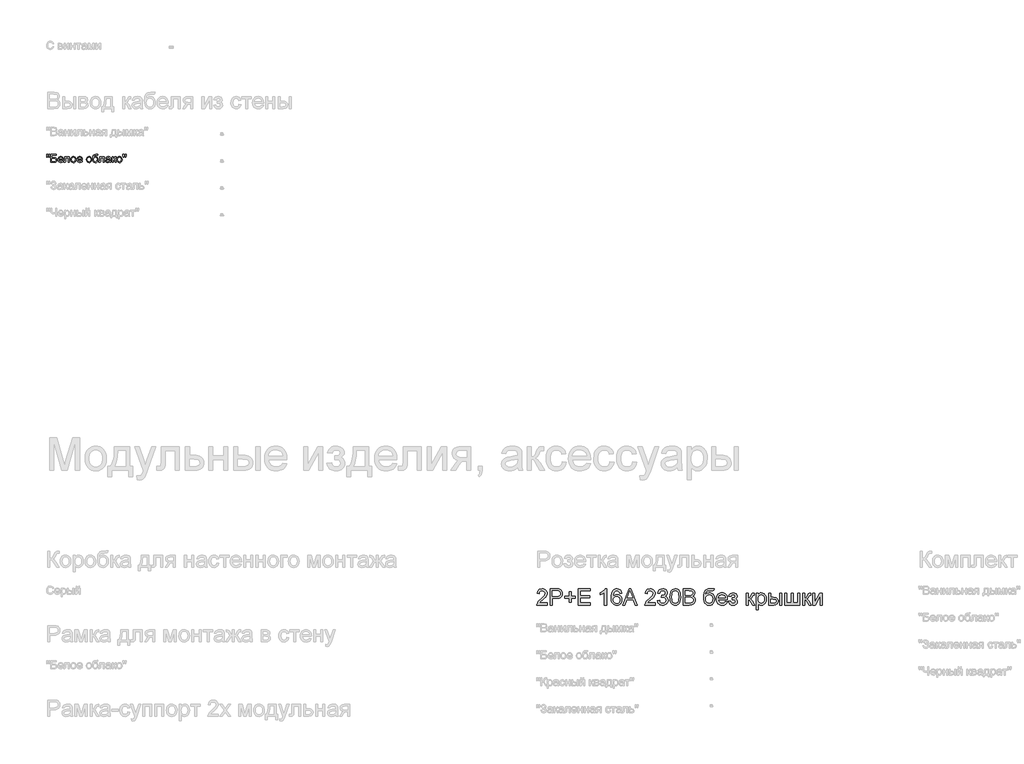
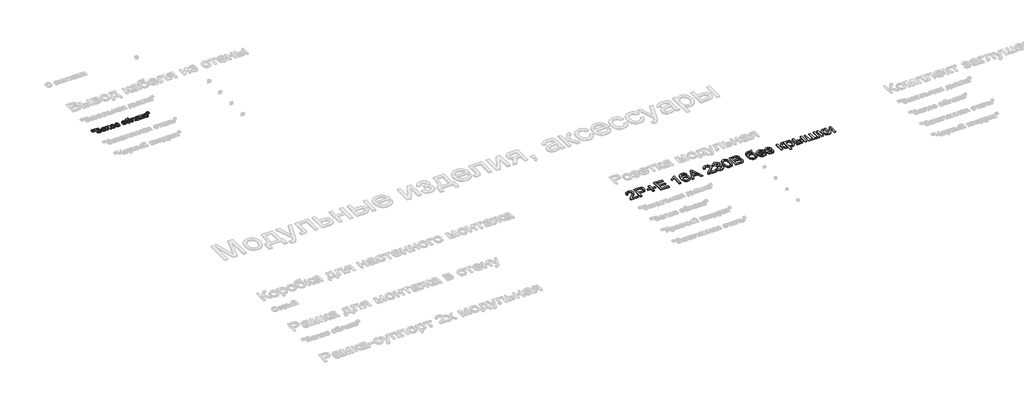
# One storey, part 98 of 168: 2 proxies.
"""IFC4 building model written with IfcOpenShell, lengths in millimetres."""

from ifc_helpers import new_model, si_unit, origin, origin_with_axes, place, context, project, spatial, polyline, outline, extrude, element, save

model = new_model("IFC4")

# Units and contexts
model_context = context("Model", 3, world=origin())
ifc_project = project(units=[si_unit("LENGTHUNIT", "METRE", prefix="MILLI")], contexts=[model_context])

# Site, building, storey
site = spatial("IfcSite", under=ifc_project)
building = spatial("IfcBuilding", under=site)
storey = spatial("IfcBuildingStorey", under=building, Name="Этаж 01", Elevation=0.0)

# Proxies
placement = place(None, origin())
element("IfcBuildingElementProxy", 1, Name="300 мм Arial 2", ObjectType="300 мм Arial 2", at=placement, inside=storey, context=model_context, shape_type="SweptSolid", body=[
    extrude(outline(polyline([(42178.0323041, -31629.1911814), (42178.0323041, -31666.8622977), (41980.2589435, -31666.8622977), (41984.3056455, -31640.8898289), (41993.5946658, -31620.5919398), (42007.1879056, -31600.901056), (42026.8511982, -31580.2904672), (42054.3503773, -31557.2334632), (42095.0013378, -31521.1258453), (42119.3919141, -31494.4727948), (42131.5872022, -31472.8413335), (42135.6522983, -31451.7984834), (42131.8171285, -31432.9353341), (42120.3116191, -31417.254364), (42102.6256922, -31406.6869537), (42080.2492698, -31403.1644836), (42056.7508074, -31406.6041802), (42038.4946633, -31416.9232702), (42026.7132424, -31433.3124131), (42022.6389493, -31454.9622685), (41984.967833, -31450.253379), (41994.1005036, -31413.8146674), (42002.6468622, -31399.27873), (42013.8465697, -31387.198405), (42027.4421086, -31377.702451), (42043.1759617, -31370.9196267), (42081.0586102, -31365.4933673), (42101.2484339, -31367.0016835), (42119.2171701, -31371.526632), (42134.9648188, -31379.0682129), (42148.4913799, -31389.6264262), (42159.3553951, -31402.4195226), (42167.1154059, -31416.6657528), (42171.7714124, -31432.365117), (42173.3234146, -31449.517615), (42171.6495515, -31467.5346357), (42166.6279623, -31485.2389567), (42157.7160209, -31503.2467804), (42144.3711016, -31522.174309), (42123.0983252, -31544.7714606), (42090.4028129, -31573.788153), (42047.0663138, -31610.0245295), (42030.0701657, -31629.1911814), (42178.0323041, -31629.1911814)])), origin_with_axes(), (0.0, 0.0, 1.0), 20.0),
    extrude(outline(polyline([(42229.830089, -31666.8622977), (42229.830089, -31365.4933673), (42341.5190628, -31365.4933673), (42386.547819, -31368.3628468), (42406.6249789, -31373.7247269), (42423.1520775, -31382.4527273), (42436.4602087, -31394.942321), (42446.8804662, -31411.5889813), (42453.6127067, -31431.2246828), (42455.8567869, -31452.6814001), (42454.3415729, -31471.181266), (42449.795931, -31488.2004068), (42442.2198612, -31503.7388225), (42431.6133634, -31517.7965133), (42417.0521342, -31529.4491755), (42397.61187, -31537.7725056), (42373.2925708, -31542.7665037), (42344.0942367, -31544.4311697), (42267.5012053, -31544.4311697), (42267.5012053, -31666.8622977), (42229.830089, -31666.8622977)]), holes=[polyline([(42267.5012053, -31506.7600534), (42346.3015287, -31506.7600534), (42379.7052139, -31503.3019627), (42401.7781336, -31492.9276904), (42414.0837863, -31476.2810301), (42418.1856706, -31454.0057753), (42415.7668464, -31437.0832035), (42408.5103741, -31422.8093821), (42397.3175644, -31412.0672279), (42383.0897282, -31405.7396576), (42345.4186119, -31403.1644836), (42267.5012053, -31403.1644836), (42267.5012053, -31506.7600534)])]), origin_with_axes(), (0.0, 0.0, 1.0), 20.0),
    extrude(outline(polyline([(42578.2879149, -31619.7734024), (42578.2879149, -31539.7222802), (42498.2367927, -31539.7222802), (42498.2367927, -31502.0511639), (42578.2879149, -31502.0511639), (42578.2879149, -31422.0000417), (42615.9590312, -31422.0000417), (42615.9590312, -31502.0511639), (42696.0101533, -31502.0511639), (42696.0101533, -31539.7222802), (42615.9590312, -31539.7222802), (42615.9590312, -31619.7734024), (42578.2879149, -31619.7734024)])), origin_with_axes(), (0.0, 0.0, 1.0), 20.0),
    extrude(outline(polyline([(42752.5168278, -31666.8622977), (42752.5168278, -31365.4933673), (42969.1257465, -31365.4933673), (42969.1257465, -31403.1644836), (42790.1879441, -31403.1644836), (42790.1879441, -31492.6333848), (42959.7079675, -31492.6333848), (42959.7079675, -31530.3045011), (42790.1879441, -31530.3045011), (42790.1879441, -31629.1911814), (42973.8346361, -31629.1911814), (42973.8346361, -31666.8622977), (42752.5168278, -31666.8622977)])), origin_with_axes(), (0.0, 0.0, 1.0), 20.0),
    extrude(outline(polyline([(43275.2035665, -31666.8622977), (43237.5324502, -31666.8622977), (43237.5324502, -31432.006432), (43201.8478967, -31457.4270779), (43162.1902176, -31476.446577), (43162.1902176, -31440.8355999), (43191.7771271, -31424.7407626), (43217.4093051, -31405.5925048), (43237.6152237, -31385.2302363), (43250.9233548, -31365.4933673), (43275.2035665, -31365.4933673), (43275.2035665, -31666.8622977)])), origin_with_axes(), (0.0, 0.0, 1.0), 20.0),
    extrude(outline(polyline([(43557.7369388, -31445.5444894), (43520.0658225, -31450.253379), (43513.9957696, -31431.5833677), (43505.7920011, -31418.8362566), (43488.7038824, -31407.0824268), (43468.0473084, -31403.1644836), (43450.5361254, -31405.445352), (43434.055012, -31412.2879571), (43419.9007523, -31426.6997342), (43408.3400606, -31446.5377708), (43400.5317652, -31474.59797), (43397.6346945, -31513.6762349), (43412.7454475, -31496.0454903), (43430.8544387, -31483.6202759), (43450.9499927, -31476.253439), (43472.0204339, -31473.7978267), (43490.1202281, -31475.4762883), (43506.8220707, -31480.5116731), (43522.1259617, -31488.9039811), (43536.0319011, -31500.6532123), (43547.5879943, -31515.0603909), (43555.8423465, -31531.4265412), (43560.7949579, -31549.7516631), (43562.4458284, -31570.0357566), (43559.3372255, -31597.0107039), (43550.0114169, -31622.0174825), (43535.2409548, -31643.2258795), (43515.7983914, -31658.805682), (43492.5666434, -31668.379811), (43466.4286276, -31671.5711873), (43443.9717311, -31669.4558658), (43423.6899368, -31663.1099014), (43405.5832449, -31652.533294), (43389.6516552, -31637.7260437), (43376.6631215, -31618.0627511), (43367.3855975, -31592.9180167), (43361.819083, -31562.2918406), (43359.9635782, -31526.1842228), (43362.0237174, -31485.7034077), (43368.2041349, -31451.1546899), (43378.5048308, -31422.5380692), (43392.925805, -31399.8535456), (43408.5561913, -31384.8209676), (43426.678978, -31374.0834119), (43447.2941653, -31367.6408784), (43470.4017532, -31365.4933673), (43503.4559504, -31370.8092621), (43529.92506, -31386.7569466), (43548.4663125, -31412.085622), (43557.7369388, -31445.5444894)]), holes=[polyline([(43397.6346945, -31569.4471454), (43399.8143953, -31586.1397909), (43406.3534978, -31602.0782784), (43416.5070409, -31615.7818827), (43429.5300635, -31625.7698789), (43445.2478217, -31631.8675229), (43463.4855717, -31633.900071), (43488.3451975, -31629.6878221), (43507.8889285, -31617.0510756), (43520.5532662, -31597.1854478), (43524.7747121, -31571.2865554), (43520.6084485, -31546.4269296), (43508.1096577, -31527.4718098), (43488.2348329, -31515.4696597), (43461.9404673, -31511.468943), (43437.1176297, -31515.4696597), (43416.3598881, -31527.4718098), (43402.3159929, -31545.9670771), (43397.6346945, -31569.4471454)])]), origin_with_axes(), (0.0, 0.0, 1.0), 20.0),
    extrude(outline(polyline([(43574.4387814, -31666.8622977), (43694.7361938, -31365.4933673), (43726.8155038, -31365.4933673), (43847.1129162, -31666.8622977), (43807.3080844, -31666.8622977), (43772.8007532, -31572.684507), (43648.677368, -31572.684507), (43614.2436133, -31666.8622977), (43574.4387814, -31666.8622977)]), holes=[polyline([(43662.509731, -31535.0133907), (43759.0419666, -31535.0133907), (43731.8922753, -31460.9219568), (43710.7758488, -31403.1644836), (43692.0138671, -31454.4472337), (43662.509731, -31535.0133907)])]), origin_with_axes(), (0.0, 0.0, 1.0), 20.0),
    extrude(outline(polyline([(44184.0192474, -31629.1911814), (44184.0192474, -31666.8622977), (43986.2458868, -31666.8622977), (43990.2925888, -31640.8898289), (43999.5816091, -31620.5919398), (44013.1748489, -31600.901056), (44032.8381415, -31580.2904672), (44060.3373206, -31557.2334632), (44100.9882811, -31521.1258453), (44125.3788574, -31494.4727948), (44137.5741455, -31472.8413335), (44141.6392416, -31451.7984834), (44137.8040718, -31432.9353341), (44126.2985624, -31417.254364), (44108.6126355, -31406.6869537), (44086.2362131, -31403.1644836), (44062.7377507, -31406.6041802), (44044.4816066, -31416.9232702), (44032.7001857, -31433.3124131), (44028.6258926, -31454.9622685), (43990.9547763, -31450.253379), (44000.0874469, -31413.8146674), (44008.6338055, -31399.27873), (44019.833513, -31387.198405), (44033.4290519, -31377.702451), (44049.162905, -31370.9196267), (44087.0455535, -31365.4933673), (44107.2353772, -31367.0016835), (44125.2041134, -31371.526632), (44140.9517621, -31379.0682129), (44154.4783232, -31389.6264262), (44165.3423384, -31402.4195226), (44173.1023492, -31416.6657528), (44177.7583557, -31432.365117), (44179.3103579, -31449.517615), (44177.6364948, -31467.5346357), (44172.6149056, -31485.2389567), (44163.7029642, -31503.2467804), (44150.3580449, -31522.174309), (44129.0852685, -31544.7714606), (44096.3897562, -31573.788153), (44053.0532571, -31610.0245295), (44036.057109, -31629.1911814), (44184.0192474, -31629.1911814)])), origin_with_axes(), (0.0, 0.0, 1.0), 20.0),
    extrude(outline(polyline([(44221.6903637, -31586.8111756), (44259.36148, -31582.102286), (44267.7951748, -31605.7754924), (44280.1468128, -31621.7599651), (44297.0233993, -31630.8650445), (44319.0319396, -31633.900071), (44344.8572557, -31629.7246103), (44364.7964598, -31617.1982284), (44377.543571, -31598.509823), (44381.792608, -31575.8482921), (44377.5803592, -31554.3363925), (44364.9436126, -31536.8895888), (44345.8137489, -31525.3288971), (44322.1221484, -31521.4753332), (44295.7082211, -31525.5956116), (44299.9020759, -31487.9244953), (44305.9353406, -31488.3659537), (44328.504901, -31485.662021), (44348.6832285, -31477.550223), (44362.9202617, -31463.8282246), (44367.6659394, -31444.2936907), (44364.2262427, -31428.0241094), (44353.9071528, -31414.8263428), (44338.1618034, -31406.0799484), (44318.4433284, -31403.1644836), (44298.6880653, -31406.1075396), (44282.5380457, -31414.9367074), (44270.7474278, -31429.6519872), (44264.0703696, -31450.253379), (44226.3992533, -31445.5444894), (44237.4908954, -31411.71774), (44257.2277645, -31386.462641), (44284.2303029, -31370.7356857), (44317.1189533, -31365.4933673), (44340.8013567, -31368.0777383), (44362.5523797, -31375.8308513), (44380.8912971, -31388.0629277), (44394.3373841, -31404.0841886), (44402.5871378, -31422.5426677), (44405.3370557, -31442.0863987), (44402.7250935, -31460.2965574), (44394.889207, -31476.814459), (44381.9397608, -31490.8859453), (44363.9871195, -31501.7568583), (44387.5683553, -31511.285002), (44405.0427501, -31527.508598), (44415.8584808, -31549.5447295), (44419.4637243, -31576.5104797), (44417.6611025, -31595.6219494), (44412.2532372, -31613.2251028), (44403.2401283, -31629.3199401), (44390.6217759, -31643.9064612), (44375.248907, -31656.0097789), (44357.9722488, -31664.6550058), (44338.7918013, -31669.8421419), (44317.7075645, -31671.5711873), (44298.6512771, -31670.0950608), (44281.2872469, -31665.6666812), (44265.6154739, -31658.2860487), (44251.6359581, -31647.9531632), (44239.9143181, -31635.2750299), (44231.0161723, -31620.8586542), (44224.9415209, -31604.7040361), (44221.6903637, -31586.8111756)])), origin_with_axes(), (0.0, 0.0, 1.0), 20.0),
    extrude(outline(polyline([(44452.4259511, -31518.6058537), (44455.1942631, -31470.3673271), (44463.4991991, -31431.8960674), (44477.2579858, -31402.6034635), (44496.3878495, -31381.9009043), (44521.0267461, -31369.5952515), (44551.3126314, -31365.4933673), (44574.5259853, -31367.9213885), (44595.311318, -31375.205452), (44612.6937423, -31387.0604493), (44625.6983708, -31403.2012718), (44635.5208201, -31423.4899638), (44643.3567066, -31447.7885696), (44648.4886604, -31478.644672), (44650.1993117, -31518.6058537), (44647.4585908, -31566.5684688), (44639.2364282, -31604.9477579), (44625.5604151, -31634.267953), (44606.4581425, -31655.0532857), (44581.7640635, -31667.4417119), (44551.3126314, -31671.5711873), (44530.5640869, -31669.7777625), (44512.1699871, -31664.3974884), (44496.1303321, -31655.4303647), (44482.4451219, -31642.8763916), (44469.3117347, -31620.1826711), (44459.9307438, -31591.9063412), (44454.3021493, -31558.0474021), (44452.4259511, -31518.6058537)]), holes=[polyline([(44490.0970674, -31518.5322773), (44494.5116513, -31577.7888697), (44500.0298813, -31598.0568683), (44507.7554032, -31612.0846687), (44527.4738781, -31628.4462204), (44551.3126314, -31633.900071), (44575.1513847, -31628.4278263), (44594.8698596, -31612.0110923), (44602.5953815, -31597.9602993), (44608.1136115, -31577.6968992), (44612.5281954, -31518.5322773), (44608.2607642, -31460.6092571), (44602.9264753, -31440.4079371), (44595.4584708, -31426.0467437), (44575.7767841, -31408.8850486), (44550.871173, -31403.1644836), (44527.2899371, -31408.2044669), (44508.3440144, -31423.3244169), (44500.3609751, -31438.9594017), (44494.6588041, -31460.03904), (44490.0970674, -31518.5322773)])]), origin_with_axes(), (0.0, 0.0, 1.0), 20.0),
    extrude(outline(polyline([(44697.2882071, -31666.8622977), (44697.2882071, -31365.4933673), (44812.2881188, -31365.4933673), (44843.9167733, -31367.7098563), (44868.6108522, -31374.3593234), (44887.5383809, -31385.6073154), (44901.8673846, -31401.6193792), (44910.8896905, -31420.4549374), (44913.8971258, -31440.1734123), (44911.3679371, -31458.3191917), (44903.780371, -31475.3797192), (44891.0792451, -31490.3065312), (44873.2093772, -31502.0511639), (44894.5557299, -31513.1979883), (44910.3286705, -31530.1573483), (44920.0683463, -31551.8072037), (44923.3149049, -31577.0255145), (44921.0984159, -31598.0407735), (44914.4489488, -31617.5293222), (44904.525332, -31634.1024061), (44892.4863937, -31646.3712706), (44877.7435228, -31655.2556208), (44859.708108, -31661.6751616), (44811.405202, -31666.8622977), (44697.2882071, -31666.8622977)]), holes=[polyline([(44734.9593234, -31487.9244953), (44803.7532565, -31487.9244953), (44843.9259704, -31484.6871337), (44857.9882596, -31479.1045244), (44868.0958174, -31470.7444061), (44874.1934615, -31459.7355374), (44876.2260095, -31446.206677), (44874.3314173, -31433.0732898), (44868.6476404, -31421.6321597), (44859.4321965, -31412.7018243), (44846.9426027, -31407.1008209), (44798.5293322, -31403.1644836), (44734.9593234, -31403.1644836), (44734.9593234, -31487.9244953)]), polyline([(44734.9593234, -31629.1911814), (44812.2145424, -31629.1911814), (44840.173574, -31627.7196534), (44863.8283863, -31619.515885), (44879.5001593, -31602.7772542), (44884.1078813, -31590.949848), (44885.6437886, -31577.3933965), (44883.8411668, -31561.6480471), (44878.4333015, -31548.1099897), (44868.9879313, -31537.5241853), (44855.0727948, -31530.6355949), (44835.3635169, -31526.8556074), (44808.5357224, -31525.5956116), (44734.9593234, -31525.5956116), (44734.9593234, -31629.1911814)])]), origin_with_axes(), (0.0, 0.0, 1.0), 20.0),
    extrude(outline(polyline([(45243.5193935, -31360.7844777), (45276.4816203, -31360.7844777), (45272.9131649, -31378.6911339), (45266.7695356, -31390.1782492), (45258.2530674, -31396.974869), (45247.5660955, -31400.8100388), (45201.4336933, -31403.1644836), (45163.1279805, -31405.3349874), (45139.2984243, -31411.8464987), (45125.042997, -31423.1404759), (45115.459671, -31439.6583775), (45109.8218794, -31461.5289621), (45107.4030553, -31488.8809885), (45122.5505965, -31467.8381383), (45140.0341883, -31452.8285529), (45159.8722249, -31443.8338382), (45182.0831003, -31440.8355999), (45202.6063171, -31442.7416885), (45221.2809269, -31448.4599542), (45238.1069297, -31457.9903972), (45253.0843254, -31471.3330173), (45265.3807811, -31487.9267945), (45274.1639637, -31507.2107089), (45279.4338733, -31529.1847603), (45281.1905098, -31553.8489488), (45277.7048279, -31589.8094138), (45267.2477822, -31618.6697564), (45252.0082706, -31641.101361), (45234.1751908, -31657.7756125), (45211.5872363, -31668.1222936), (45182.0831003, -31671.5711873), (45148.0816069, -31667.1290122), (45122.5965817, -31653.8024869), (45103.843797, -31633.5505831), (45090.0390251, -31608.3322723), (45081.540951, -31570.3576533), (45078.7082597, -31511.836825), (45080.4947866, -31472.1722481), (45085.8543674, -31439.55721), (45094.7870021, -31413.9917106), (45107.2926907, -31395.4757499), (45123.5047904, -31382.3584575), (45143.5566584, -31372.9889629), (45167.4482947, -31367.3672662), (45195.1796994, -31365.4933673), (45237.1182468, -31364.6472387), (45243.5193935, -31360.7844777)]), holes=[polyline([(45243.5193935, -31552.6717264), (45239.4359034, -31523.0296347), (45227.1854329, -31499.2920489), (45207.5037462, -31483.7030494), (45181.1266071, -31478.5067162), (45153.627428, -31483.997355), (45142.5403844, -31490.8606535), (45133.2283714, -31500.4692713), (45120.5916248, -31526.1198434), (45116.379376, -31559.1464495), (45121.0330832, -31591.1613802), (45134.9942049, -31614.6598426), (45155.7795377, -31629.0900139), (45180.9058779, -31633.900071), (45206.1609769, -31628.3358558), (45226.1553633, -31611.6432103), (45239.178386, -31585.7719089), (45243.5193935, -31552.6717264)])]), origin_with_axes(), (0.0, 0.0, 1.0), 20.0),
    extrude(outline(polyline([(45483.2313016, -31600.9378442), (45520.1666539, -31605.6467337), (45506.8585227, -31633.4770067), (45485.6225345, -31654.2807335), (45456.936936, -31667.2485738), (45421.2799736, -31671.5711873), (45397.9056713, -31669.7064854), (45377.0789519, -31664.1123798), (45358.7998152, -31654.7888705), (45343.0682614, -31641.7359575), (45330.4177193, -31625.3169242), (45321.3816178, -31605.8950541), (45315.9599569, -31583.4703472), (45314.1527366, -31558.0428036), (45315.978351, -31531.7530365), (45321.4551942, -31508.5810693), (45330.5832662, -31488.526902), (45343.362567, -31471.5905347), (45359.0527341, -31458.1352507), (45376.913405, -31448.5243336), (45396.9445796, -31442.7577833), (45419.146258, -31440.8355999), (45440.6328658, -31442.7531848), (45460.0639329, -31448.5059395), (45477.4394594, -31458.093864), (45492.7594453, -31471.5169583), (45505.2651338, -31488.4165374), (45514.1977685, -31508.4339165), (45519.5573493, -31531.5690955), (45521.3438763, -31557.8220744), (45521.1231471, -31567.9756174), (45351.8238529, -31567.9756174), (45358.3445613, -31596.1737724), (45373.4921024, -31616.9039228), (45395.35349, -31629.6510339), (45422.0157376, -31633.900071), (45442.0653063, -31631.9319023), (45458.9510899, -31626.0273963), (45472.6730883, -31615.8186709), (45483.2313016, -31600.9378442)]), holes=[polyline([(45351.8238529, -31530.3045011), (45483.67276, -31530.3045011), (45478.5775943, -31510.4020852), (45468.5895982, -31496.165052), (45446.6270431, -31482.9213001), (45418.9991052, -31478.5067162), (45393.6060505, -31482.0291863), (45372.6091856, -31492.5965966), (45358.0134675, -31509.068513), (45351.8238529, -31530.3045011)])]), origin_with_axes(), (0.0, 0.0, 1.0), 20.0),
    extrude(outline(polyline([(45610.8127775, -31567.9756174), (45610.8127775, -31530.3045011), (45640.5376427, -31528.8329731), (45655.5472281, -31520.9970866), (45660.8447288, -31513.6486438), (45662.6105624, -31504.6263379), (45660.2469206, -31493.9117748), (45653.1559952, -31485.6068387), (45642.3310674, -31480.2817468), (45628.7654189, -31478.5067162), (45615.0526175, -31480.2725498), (45603.5655022, -31485.5700505), (45594.304073, -31494.3992184), (45587.2683298, -31506.7600534), (45544.888324, -31502.0511639), (45556.1271189, -31475.2693546), (45573.2152376, -31456.1394909), (45596.15268, -31444.6615726), (45624.9394461, -31440.8355999), (45656.4301449, -31445.4985042), (45680.2688982, -31459.4872171), (45695.2784836, -31479.950653), (45700.2816787, -31504.0377267), (45698.5020496, -31516.3985617), (45693.1631621, -31527.4350216), (45684.2650164, -31537.1471062), (45671.8076123, -31545.5348157), (45686.3481482, -31556.0010585), (45696.7132234, -31569.005687), (45702.921232, -31584.5854895), (45704.9905683, -31602.7772542), (45699.7390528, -31630.5063596), (45683.9845063, -31652.4781117), (45658.7937867, -31666.7979184), (45625.2337517, -31671.5711873), (45592.4094807, -31667.1566033), (45567.2923375, -31653.9128515), (45549.8823221, -31631.8399318), (45540.1794344, -31600.9378442), (45582.5594403, -31596.2289547), (45588.9054047, -31612.1582451), (45599.5555885, -31624.0408335), (45613.2775869, -31631.4352616), (45628.8389953, -31633.900071), (45643.9957335, -31631.5364291), (45656.3565685, -31624.4455037), (45664.5787311, -31613.6757583), (45667.319452, -31600.2756566), (45665.6179977, -31589.662261), (45660.5136351, -31580.4836053), (45646.0190844, -31569.8886038), (45618.1704174, -31567.7548882), (45610.8127775, -31567.9756174)])), origin_with_axes(), (0.0, 0.0, 1.0), 20.0),
    extrude(outline(polyline([(45869.8017021, -31445.5444894), (45907.4728184, -31445.5444894), (45907.4728184, -31539.7222802), (45922.7951035, -31538.030023), (45932.7095233, -31532.9532515), (45941.4835089, -31519.7094997), (45953.3844914, -31493.5163016), (45970.5645806, -31459.4872171), (45985.7213188, -31448.413969), (46013.2756802, -31445.5444894), (46020.4861673, -31445.5444894), (46020.4861673, -31483.4363349), (46010.3326243, -31483.2156057), (45991.9385245, -31487.1887313), (45978.9890783, -31511.9839778), (45963.7955519, -31538.8025752), (45942.4951844, -31551.9359624), (45954.4329551, -31557.2380617), (45966.2603612, -31566.5960599), (45989.5840797, -31597.4797534), (46029.9039464, -31666.8622977), (45987.0824822, -31666.8622977), (45947.5719559, -31598.9512814), (45927.7063282, -31570.2196976), (45918.4173078, -31565.0049703), (45907.4728184, -31563.2667279), (45907.4728184, -31666.8622977), (45869.8017021, -31666.8622977), (45869.8017021, -31445.5444894)])), origin_with_axes(), (0.0, 0.0, 1.0), 20.0),
    extrude(outline(polyline([(46053.4483941, -31751.6223094), (46053.4483941, -31445.5444894), (46091.1195104, -31445.5444894), (46091.1195104, -31482.4798418), (46103.406769, -31464.2604859), (46117.1655557, -31451.2466604), (46133.2052107, -31443.438365), (46152.3350744, -31440.8355999), (46177.8109026, -31444.4776316), (46200.0861574, -31455.4037269), (46218.2227397, -31472.9516981), (46231.2825506, -31496.4593576), (46239.1736194, -31524.2160541), (46241.8039756, -31554.5111364), (46238.8333285, -31586.7284021), (46229.9213872, -31615.5427594), (46215.3532602, -31639.4918773), (46195.414056, -31657.1134249), (46172.1915051, -31667.9567467), (46147.7733377, -31671.5711873), (46130.4552927, -31669.1523632), (46114.9950519, -31661.8958908), (46101.7604971, -31650.9422044), (46091.1195104, -31637.4317381), (46091.1195104, -31751.6223094), (46053.4483941, -31751.6223094)]), holes=[polyline([(46091.1195104, -31557.9692272), (46095.1938035, -31591.7407943), (46107.4166828, -31615.3588184), (46125.4520976, -31629.2647578), (46146.9639973, -31633.900071), (46168.8253848, -31629.0992109), (46187.3206521, -31614.6966308), (46199.9298075, -31590.214084), (46204.1328593, -31555.173324), (46200.0309751, -31521.5856978), (46187.7253223, -31497.63658), (46169.7174987, -31483.2891821), (46148.5091017, -31478.5067162), (46127.2179312, -31483.5926848), (46108.5203288, -31498.8505905), (46095.469715, -31523.8021869), (46091.1195104, -31557.9692272)])]), origin_with_axes(), (0.0, 0.0, 1.0), 20.0),
    extrude(outline(polyline([(46491.3751212, -31445.5444894), (46529.0462375, -31445.5444894), (46529.0462375, -31666.8622977), (46491.3751212, -31666.8622977), (46491.3751212, -31445.5444894)])), origin_with_axes(), (0.0, 0.0, 1.0), 20.0),
    extrude(outline(polyline([(46284.1839815, -31445.5444894), (46321.8550978, -31445.5444894), (46321.8550978, -31525.5956116), (46368.4289584, -31525.5956116), (46408.6844457, -31530.3136982), (46424.9011439, -31536.2113064), (46438.5104785, -31544.4679579), (46449.2779246, -31554.7985442), (46456.9689576, -31566.9179567), (46461.5835773, -31580.8261954), (46463.1217839, -31596.5232603), (46457.9622389, -31623.4798135), (46442.483604, -31646.2241178), (46430.6217089, -31655.2533215), (46415.6742036, -31661.7027528), (46376.5223623, -31666.8622977), (46284.1839815, -31666.8622977), (46284.1839815, -31445.5444894)]), holes=[polyline([(46321.8550978, -31629.1911814), (46360.5562837, -31629.1911814), (46390.5570604, -31627.2138157), (46410.5146586, -31621.2817185), (46421.7166654, -31611.1557666), (46425.4506676, -31596.5968367), (46422.6823556, -31584.2911839), (46414.3774196, -31573.420271), (46396.6179163, -31565.8051137), (46365.4859024, -31563.2667279), (46321.8550978, -31563.2667279), (46321.8550978, -31629.1911814)])]), origin_with_axes(), (0.0, 0.0, 1.0), 20.0),
    extrude(outline(polyline([(46585.5529119, -31445.5444894), (46623.2240282, -31445.5444894), (46623.2240282, -31629.1911814), (46707.9840399, -31629.1911814), (46707.9840399, -31445.5444894), (46745.6551562, -31445.5444894), (46745.6551562, -31629.1911814), (46830.4151679, -31629.1911814), (46830.4151679, -31445.5444894), (46868.0862842, -31445.5444894), (46868.0862842, -31666.8622977), (46585.5529119, -31666.8622977), (46585.5529119, -31445.5444894)])), origin_with_axes(), (0.0, 0.0, 1.0), 20.0),
    extrude(outline(polyline([(46919.8840691, -31445.5444894), (46957.5551854, -31445.5444894), (46957.5551854, -31539.7222802), (46972.8774705, -31538.030023), (46982.7918903, -31532.9532515), (46991.5658759, -31519.7094997), (47003.4668584, -31493.5163016), (47020.6469476, -31459.4872171), (47035.8036858, -31448.413969), (47063.3580473, -31445.5444894), (47070.5685344, -31445.5444894), (47070.5685344, -31483.4363349), (47060.4149913, -31483.2156057), (47042.0208915, -31487.1887313), (47029.0714453, -31511.9839778), (47013.8779189, -31538.8025752), (46992.5775514, -31551.9359624), (47004.5153221, -31557.2380617), (47016.3427283, -31566.5960599), (47039.6664468, -31597.4797534), (47079.9863134, -31666.8622977), (47037.1648492, -31666.8622977), (46997.6543229, -31598.9512814), (46977.7886952, -31570.2196976), (46968.4996748, -31565.0049703), (46957.5551854, -31563.2667279), (46957.5551854, -31666.8622977), (46919.8840691, -31666.8622977), (46919.8840691, -31445.5444894)])), origin_with_axes(), (0.0, 0.0, 1.0), 20.0),
    extrude(outline(polyline([(47103.5307611, -31445.5444894), (47141.2018774, -31445.5444894), (47141.2018774, -31614.3287488), (47233.7609874, -31445.5444894), (47282.4685636, -31445.5444894), (47282.4685636, -31666.8622977), (47244.7974473, -31666.8622977), (47244.7974473, -31499.1081079), (47152.8269485, -31666.8622977), (47103.5307611, -31666.8622977), (47103.5307611, -31445.5444894)])), origin_with_axes(), (0.0, 0.0, 1.0), 20.0),
])
element("IfcBuildingElementProxy", 2, Name="150", ObjectType="150", at=placement, inside=storey, context=model_context, shape_type="SweptSolid", body=[
    extrude(outline(polyline([(32880.1485789, -23351.873446), (32875.550054, -23322.7739802), (32875.550054, -23297.7212163), (32894.3856121, -23297.7212163), (32894.3856121, -23322.7739802), (32890.2653338, -23351.873446), (32880.1485789, -23351.873446)])), origin_with_axes(), (0.0, 0.0, 1.0), 20.0),
    extrude(outline(polyline([(32917.7093306, -23351.873446), (32913.2211703, -23322.7739802), (32913.2211703, -23297.7212163), (32932.0567284, -23297.7212163), (32932.0567284, -23322.7739802), (32927.6421445, -23351.873446), (32917.7093306, -23351.873446)])), origin_with_axes(), (0.0, 0.0, 1.0), 20.0),
    extrude(outline(polyline([(32957.9556209, -23297.7212163), (33052.1334117, -23297.7212163), (33052.1334117, -23316.5567745), (32976.791179, -23316.5567745), (32976.791179, -23361.2912251), (33012.0710624, -23361.2912251), (33043.157091, -23365.1171979), (33053.5589544, -23370.6446248), (33061.6615553, -23379.5749603), (33066.8762826, -23391.0712726), (33068.614525, -23404.2966303), (33063.6665122, -23425.7625448), (33048.8960501, -23442.0781113), (33035.6247071, -23446.823789), (33015.4555767, -23448.4056816), (32957.9556209, -23448.4056816), (32957.9556209, -23297.7212163)]), holes=[polyline([(32976.791179, -23429.5701234), (33017.1478339, -23429.5701234), (33031.4124583, -23428.015822), (33041.6119866, -23423.3529177), (33047.7372218, -23415.5814105), (33049.7789669, -23404.7013005), (33045.1068655, -23389.9492325), (33032.102237, -23382.0765578), (33003.7201411, -23380.1267833), (32976.791179, -23380.1267833), (32976.791179, -23429.5701234)])]), origin_with_axes(), (0.0, 0.0, 1.0), 20.0),
    extrude(outline(polyline([(33169.6349209, -23415.4434548), (33188.1025971, -23417.7978996), (33181.4485315, -23431.713036), (33170.8305374, -23442.1148995), (33156.4877381, -23448.5988196), (33138.6592569, -23450.7601263), (33116.5587461, -23447.0307226), (33099.5534008, -23435.8425114), (33088.710079, -23417.9220597), (33085.0956384, -23393.9959345), (33088.7468672, -23369.2650674), (33099.7005536, -23350.7698), (33116.4759726, -23339.2366995), (33137.5923991, -23335.3923327), (33158.0512366, -23339.2275025), (33174.3989927, -23350.7330118), (33185.1181544, -23369.191491), (33188.6912083, -23393.8855699), (33188.5808437, -23398.9623414), (33103.9311966, -23398.9623414), (33107.1915508, -23413.0614189), (33114.7653213, -23423.4264941), (33125.6960151, -23429.8000497), (33139.0271389, -23431.9245682), (33157.4948151, -23427.9882308), (33169.6349209, -23415.4434548)]), holes=[polyline([(33103.9311966, -23380.1267833), (33169.8556501, -23380.1267833), (33167.3080673, -23370.1755753), (33162.3140692, -23363.0570587), (33151.3327917, -23356.4351828), (33137.5188227, -23354.2278908), (33124.8222954, -23355.9891259), (33114.3238629, -23361.272831), (33107.0260039, -23369.5087892), (33103.9311966, -23380.1267833)])]), origin_with_axes(), (0.0, 0.0, 1.0), 20.0),
    extrude(outline(polyline([(33216.9445455, -23337.7467774), (33301.7045572, -23337.7467774), (33301.7045572, -23448.295317), (33282.868999, -23448.295317), (33282.868999, -23356.5823356), (33235.7801036, -23356.5823356), (33235.7801036, -23409.3734019), (33234.5109108, -23433.72719), (33227.539547, -23444.0094917), (33211.0584336, -23448.4056816), (33195.7545426, -23447.4491884), (33195.7545426, -23429.5701234), (33204.1790403, -23429.5701234), (33212.6955084, -23428.4112951), (33216.0984169, -23424.7324752), (33216.9445455, -23408.3065441), (33216.9445455, -23337.7467774)])), origin_with_axes(), (0.0, 0.0, 1.0), 20.0),
    extrude(outline(polyline([(33325.2490049, -23393.0762295), (33329.323298, -23366.3955878), (33341.5461773, -23347.6428031), (33356.6477332, -23338.4549503), (33374.7291332, -23335.3923327), (33394.516586, -23339.1217364), (33410.3217163, -23350.3099476), (33420.6821929, -23368.0740494), (33424.1356852, -23391.5311251), (33422.6089749, -23410.5598213), (33418.0288441, -23425.0451749), (33410.5286499, -23435.8930952), (33400.2417496, -23444.0094917), (33388.0234688, -23449.0724677), (33374.7291332, -23450.7601263), (33354.7025571, -23447.0445182), (33338.915821, -23435.8976937), (33328.6657089, -23417.7611114), (33325.2490049, -23393.0762295)]), holes=[polyline([(33344.084563, -23393.0394413), (33346.2642638, -23410.0861732), (33352.8033663, -23422.2308776), (33362.6442097, -23429.5011455), (33374.7291332, -23431.9245682), (33386.7588745, -23429.48735), (33396.5813237, -23422.1756953), (33403.1204262, -23409.8700426), (33405.300127, -23392.4508301), (33403.1066306, -23375.9007388), (33396.5261414, -23363.9215814), (33386.6898966, -23356.6513134), (33374.7291332, -23354.2278908), (33362.6442097, -23356.6421164), (33352.8033663, -23363.8847932), (33346.2642638, -23376.0019064), (33344.084563, -23393.0394413)])]), origin_with_axes(), (0.0, 0.0, 1.0), 20.0),
    extrude(outline(polyline([(33522.8016363, -23415.4434548), (33541.2693124, -23417.7978996), (33534.6152469, -23431.713036), (33523.9972528, -23442.1148995), (33509.6544535, -23448.5988196), (33491.8259723, -23450.7601263), (33469.7254614, -23447.0307226), (33452.7201162, -23435.8425114), (33441.8767944, -23417.9220597), (33438.2623538, -23393.9959345), (33441.9135826, -23369.2650674), (33452.867269, -23350.7698), (33469.642688, -23339.2366995), (33490.7591145, -23335.3923327), (33511.217952, -23339.2275025), (33527.5657081, -23350.7330118), (33538.2848698, -23369.191491), (33541.8579236, -23393.8855699), (33541.747559, -23398.9623414), (33457.0979119, -23398.9623414), (33460.3582661, -23413.0614189), (33467.9320367, -23423.4264941), (33478.8627305, -23429.8000497), (33492.1938543, -23431.9245682), (33510.6615304, -23427.9882308), (33522.8016363, -23415.4434548)]), holes=[polyline([(33457.0979119, -23380.1267833), (33523.0223655, -23380.1267833), (33520.4747827, -23370.1755753), (33515.4807846, -23363.0570587), (33504.499507, -23356.4351828), (33490.6855381, -23354.2278908), (33477.9890107, -23355.9891259), (33467.4905783, -23361.272831), (33460.1927192, -23369.5087892), (33457.0979119, -23380.1267833)])]), origin_with_axes(), (0.0, 0.0, 1.0), 20.0),
    extrude(outline(polyline([(33614.8457115, -23393.0762295), (33618.9200046, -23366.3955878), (33631.1428839, -23347.6428031), (33646.2444398, -23338.4549503), (33664.3258398, -23335.3923327), (33684.1132926, -23339.1217364), (33699.9184229, -23350.3099476), (33710.2788995, -23368.0740494), (33713.7323918, -23391.5311251), (33712.2056815, -23410.5598213), (33707.6255507, -23425.0451749), (33700.1253565, -23435.8930952), (33689.8384562, -23444.0094917), (33677.6201754, -23449.0724677), (33664.3258398, -23450.7601263), (33644.2992637, -23447.0445182), (33628.5125276, -23435.8976937), (33618.2624155, -23417.7611114), (33614.8457115, -23393.0762295)]), holes=[polyline([(33633.6812696, -23393.0394413), (33635.8609704, -23410.0861732), (33642.4000729, -23422.2308776), (33652.2409163, -23429.5011455), (33664.3258398, -23431.9245682), (33676.3555811, -23429.48735), (33686.1780303, -23422.1756953), (33692.7171328, -23409.8700426), (33694.8968336, -23392.4508301), (33692.7033372, -23375.9007388), (33686.122848, -23363.9215814), (33676.2866032, -23356.6513134), (33664.3258398, -23354.2278908), (33652.2409163, -23356.6421164), (33642.4000729, -23363.8847932), (33635.8609704, -23376.0019064), (33633.6812696, -23393.0394413)])]), origin_with_axes(), (0.0, 0.0, 1.0), 20.0),
    extrude(outline(polyline([(33812.6190721, -23295.3667716), (33829.1001855, -23295.3667716), (33824.2441431, -23310.0636573), (33814.6424231, -23315.3795521), (33791.576222, -23316.5567745), (33760.5085875, -23320.897782), (33753.3808738, -23326.5447707), (33748.5892108, -23334.8037215), (33744.560903, -23359.4150269), (33760.8764695, -23341.3888092), (33770.7954878, -23336.8914518), (33781.9009255, -23335.3923327), (33801.4998388, -23339.2045098), (33817.401538, -23350.6410414), (33827.9413572, -23368.5798871), (33831.4546302, -23391.8990071), (33829.7117893, -23409.8792396), (33824.4832664, -23424.3094109), (33807.9469707, -23443.8623389), (33796.6529935, -23449.0356795), (33781.9009255, -23450.7601263), (33764.9001788, -23448.5390388), (33752.1576662, -23441.8757762), (33742.7812738, -23431.7498242), (33735.8788879, -23419.1406689), (33731.6298508, -23400.1533594), (33730.2135052, -23370.8929452), (33733.786559, -23334.7531377), (33744.5057207, -23312.7124076), (33762.6377045, -23301.4690142), (33788.449225, -23297.7212163), (33809.4184987, -23297.2981521), (33812.6190721, -23295.3667716)]), holes=[polyline([(33812.6190721, -23391.3103959), (33810.577327, -23376.48935), (33804.4520918, -23364.6205572), (33794.6112484, -23356.8260574), (33781.4226789, -23354.2278908), (33767.6730893, -23356.9732102), (33757.473561, -23365.2091684), (33751.1551877, -23378.0344544), (33749.0490633, -23394.5477575), (33751.3759169, -23410.5552228), (33758.3564778, -23422.304454), (33768.7491442, -23429.5195396), (33781.3123143, -23431.9245682), (33793.9398638, -23429.1424606), (33803.937057, -23420.7961378), (33810.4485683, -23407.8604872), (33812.6190721, -23391.3103959)])]), origin_with_axes(), (0.0, 0.0, 1.0), 20.0),
    extrude(outline(polyline([(33864.416857, -23337.7467774), (33949.1768687, -23337.7467774), (33949.1768687, -23448.295317), (33930.3413105, -23448.295317), (33930.3413105, -23356.5823356), (33883.2524152, -23356.5823356), (33883.2524152, -23409.3734019), (33881.9832223, -23433.72719), (33875.0118585, -23444.0094917), (33858.5307451, -23448.4056816), (33843.2268541, -23447.4491884), (33843.2268541, -23429.5701234), (33851.6513518, -23429.5701234), (33860.16782, -23428.4112951), (33863.5707284, -23424.7324752), (33864.416857, -23408.3065441), (33864.416857, -23337.7467774)])), origin_with_axes(), (0.0, 0.0, 1.0), 20.0),
    extrude(outline(polyline([(34048.063549, -23434.279013), (34029.7982079, -23447.0445182), (34009.6198805, -23450.7601263), (33993.8791296, -23448.5252432), (33982.2678542, -23441.8205939), (33975.1079508, -23431.6394596), (33972.7213164, -23418.975122), (33976.3265599, -23404.0759012), (33985.7995213, -23393.2601705), (33998.9880908, -23387.079753), (34015.2852632, -23384.2470616), (34047.9531844, -23377.7723385), (34048.063549, -23373.5784838), (34046.766765, -23365.1723802), (34042.8764129, -23359.6725443), (34034.1760037, -23355.5890542), (34022.0542919, -23354.2278908), (34002.9980046, -23357.8515285), (33993.9113193, -23370.7090042), (33975.0757612, -23368.3545594), (33983.2243473, -23349.9604597), (33999.6318843, -23339.1815172), (34024.4823131, -23335.3923327), (34047.3093909, -23338.7400588), (34060.2036548, -23347.1461624), (34065.9794022, -23359.9300617), (34066.8991071, -23376.4111751), (34066.8991071, -23399.8452582), (34067.8556003, -23432.5683617), (34071.6079967, -23448.4056816), (34052.7724385, -23448.4056816), (34048.063549, -23434.279013)]), holes=[polyline([(34048.063549, -23396.6078966), (34017.6764962, -23402.383644), (34001.4712943, -23405.4370645), (33994.1320485, -23410.4034715), (33991.5568745, -23417.6507468), (33997.167075, -23427.841078), (34013.6297942, -23431.9245682), (34032.6860816, -23427.4180137), (34044.9733402, -23416.5103126), (34047.9531844, -23401.9421856), (34048.063549, -23396.6078966)])]), origin_with_axes(), (0.0, 0.0, 1.0), 20.0),
    extrude(outline(polyline([(34092.7979996, -23337.7467774), (34111.6335578, -23337.7467774), (34111.6335578, -23384.8356728), (34124.2519102, -23381.4511584), (34134.5893943, -23361.7326835), (34143.1794388, -23344.7181412), (34150.7578079, -23339.1815172), (34164.5349887, -23337.7467774), (34168.1402322, -23337.7467774), (34168.1402322, -23356.6927002), (34163.0634607, -23356.5823356), (34153.8664108, -23358.5688983), (34147.3916877, -23370.9665216), (34139.7949245, -23384.3758203), (34129.1447407, -23390.9425139), (34141.0273292, -23398.2725627), (34152.6891884, -23413.7144094), (34172.8491218, -23448.4056816), (34151.4383896, -23448.4056816), (34131.6831265, -23414.4501734), (34121.7503126, -23400.0843815), (34111.6335578, -23396.6078966), (34111.6335578, -23448.4056816), (34092.7979996, -23448.4056816), (34092.7979996, -23337.7467774)])), origin_with_axes(), (0.0, 0.0, 1.0), 20.0),
    extrude(outline(polyline([(34179.9124561, -23393.0762295), (34183.9867492, -23366.3955878), (34196.2096285, -23347.6428031), (34211.3111844, -23338.4549503), (34229.3925844, -23335.3923327), (34249.1800372, -23339.1217364), (34264.9851674, -23350.3099476), (34275.3456441, -23368.0740494), (34278.7991364, -23391.5311251), (34277.2724261, -23410.5598213), (34272.6922952, -23425.0451749), (34265.1921011, -23435.8930952), (34254.9052008, -23444.0094917), (34242.68692, -23449.0724677), (34229.3925844, -23450.7601263), (34209.3660083, -23447.0445182), (34193.5792722, -23435.8976937), (34183.3291601, -23417.7611114), (34179.9124561, -23393.0762295)]), holes=[polyline([(34198.7480142, -23393.0394413), (34200.927715, -23410.0861732), (34207.4668175, -23422.2308776), (34217.3076609, -23429.5011455), (34229.3925844, -23431.9245682), (34241.4223257, -23429.48735), (34251.2447749, -23422.1756953), (34257.7838774, -23409.8700426), (34259.9635782, -23392.4508301), (34257.7700818, -23375.9007388), (34251.1895926, -23363.9215814), (34241.3533478, -23356.6513134), (34229.3925844, -23354.2278908), (34217.3076609, -23356.6421164), (34207.4668175, -23363.8847932), (34200.927715, -23376.0019064), (34198.7480142, -23393.0394413)])]), origin_with_axes(), (0.0, 0.0, 1.0), 20.0),
    extrude(outline(polyline([(34299.8787747, -23351.873446), (34295.2802498, -23322.7739802), (34295.2802498, -23297.7212163), (34314.1158079, -23297.7212163), (34314.1158079, -23322.7739802), (34309.9955296, -23351.873446), (34299.8787747, -23351.873446)])), origin_with_axes(), (0.0, 0.0, 1.0), 20.0),
    extrude(outline(polyline([(34337.4395264, -23351.873446), (34332.9513661, -23322.7739802), (34332.9513661, -23297.7212163), (34351.7869242, -23297.7212163), (34351.7869242, -23322.7739802), (34347.3723403, -23351.873446), (34337.4395264, -23351.873446)])), origin_with_axes(), (0.0, 0.0, 1.0), 20.0),
])

save(model, "model.ifc")
